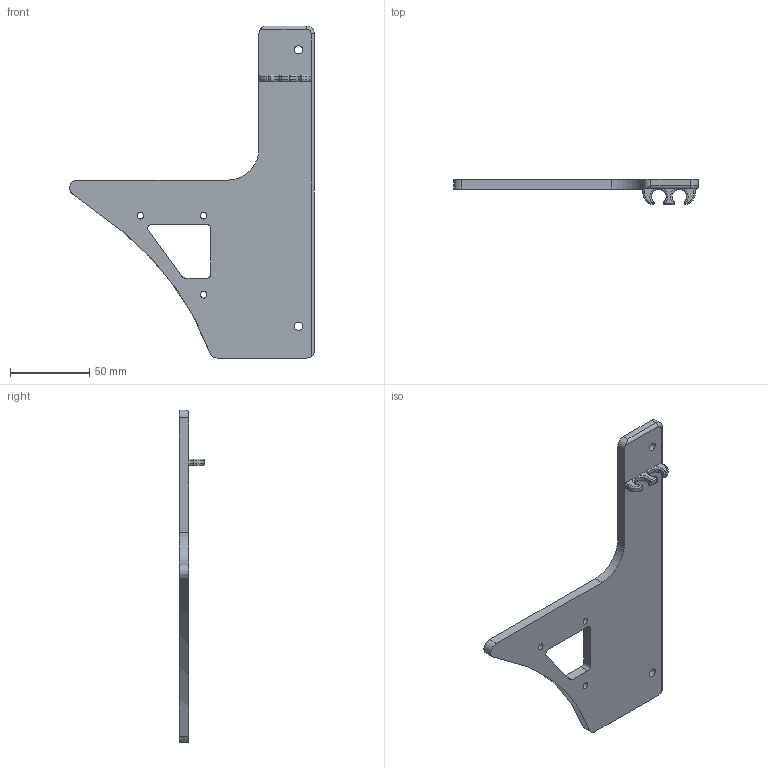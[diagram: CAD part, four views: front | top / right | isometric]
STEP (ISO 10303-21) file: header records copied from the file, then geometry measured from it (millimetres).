
FILE_DESCRIPTION(/* description */ (''),/* implementation_level */ '2;1');
FILE_NAME(/* name */ 'D:/Down/Druck/Tisch/RahmenbefestigungV58.step',/* time_stamp */ '2022-02-09T16:40:20+07:00',/* author */ (''),/* organization */ (''),/* preprocessor_version */ 'ST-DEVELOPER v18.1',/* originating_system */ 'Autodesk Translation Framework v10.13.0.1454',/* authorisation */ '');
FILE_SCHEMA (('AUTOMOTIVE_DESIGN { 1 0 10303 214 3 1 1 }'));
Length unit declared in the file: millimetre
Products named in the file (1): Rahmenbefestigung
Bounding box: 154.74 x 16 x 210 mm (x, y, z)
Volume: 84025.5 mm3; surface area: 33332.2 mm2
Topology: 1 solids, 1 shells, 87 faces, 204 edges, 119 vertices
Faces by surface type: cylinder 36, plane 22, sphere 14, torus 9, bspline 3, cone 3
Full cylindrical faces by diameter (mm): 4.2 x3, 5.2 x2
Entity records: 2697 total; most frequent: CARTESIAN_POINT 618, DIRECTION 458, ORIENTED_EDGE 408, EDGE_CURVE 204, AXIS2_PLACEMENT_3D 185, VERTEX_POINT 119, CIRCLE 100, EDGE_LOOP 99
